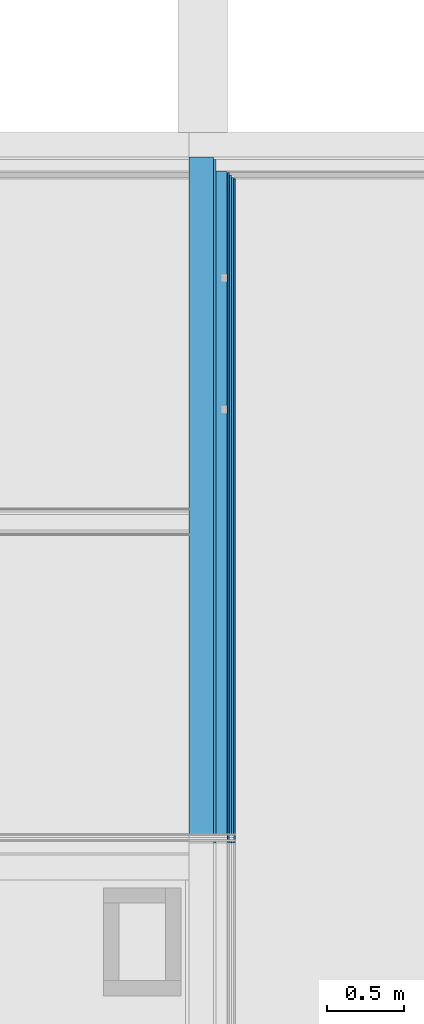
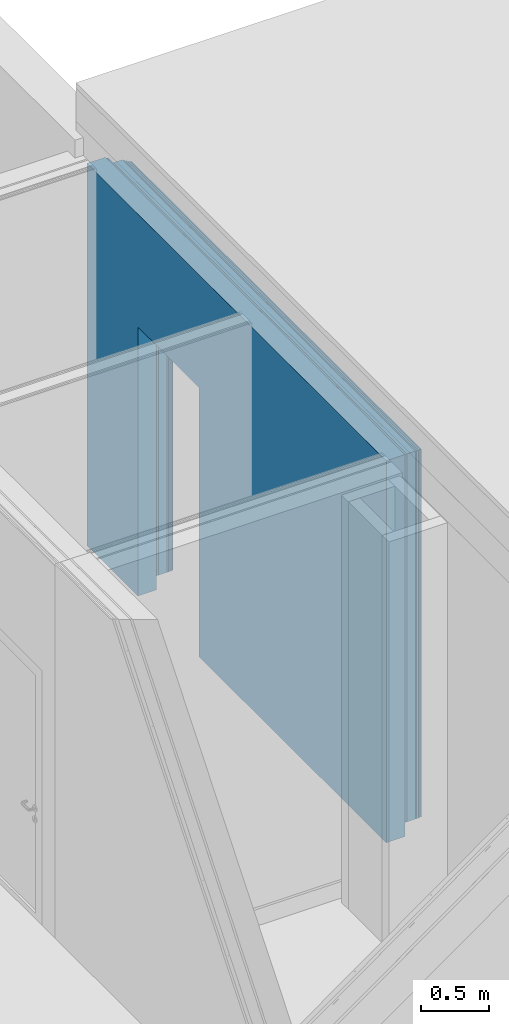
# One storey, part 31 of 139: 7 building element parts, 1 opening, 1 element without a shape of its own.
"""IFC2X3 building model written with IfcOpenShell, lengths in millimetres."""

from ifc_helpers import new_model, entity, si_unit, converted_unit, derived_unit, money_unit, direction, frame, origin_with_axes, place, context, subcontext, project, spatial, faceted_brep, material, type_object, element, aggregate, save


model = new_model("IFC2X3")

# Units and contexts
model_context = context("Model", 3, precision=0.01, world=origin_with_axes(), true_north=direction((0.0, 1.0)))
body_context = subcontext(model_context, "Body", "Model", "MODEL_VIEW")
ifc_project = project(units=[si_unit("LENGTHUNIT", "METRE", prefix="MILLI"), si_unit("AREAUNIT", "SQUARE_METRE"), si_unit("VOLUMEUNIT", "CUBIC_METRE"), converted_unit("PLANEANGLEUNIT", "DEGREE", entity("IfcPlaneAngleMeasure", 0.0174532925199), si_unit("PLANEANGLEUNIT", "RADIAN"), dimensions=[0, 0, 0, 0, 0, 0, 0]), money_unit("EUR"), converted_unit("TIMEUNIT", "Year", entity("IfcTimeMeasure", 31556926.0), si_unit("TIMEUNIT", "SECOND"), dimensions=[0, 0, 1, 0, 0, 0, 0]), si_unit("MASSUNIT", "GRAM", prefix="KILO"), si_unit("THERMODYNAMICTEMPERATUREUNIT", "DEGREE_CELSIUS"), si_unit("LUMINOUSINTENSITYUNIT", "LUMEN"), si_unit("ENERGYUNIT", "JOULE", prefix="MEGA"), derived_unit("THERMALCONDUCTANCEUNIT", [(si_unit("POWERUNIT", "WATT"), 1), (si_unit("LENGTHUNIT", "METRE"), -1), (si_unit("THERMODYNAMICTEMPERATUREUNIT", "KELVIN"), -1)]), derived_unit("SPECIFICHEATCAPACITYUNIT", [(si_unit("ENERGYUNIT", "JOULE"), 1), (si_unit("MASSUNIT", "GRAM", prefix="KILO"), -1), (si_unit("THERMODYNAMICTEMPERATUREUNIT", "KELVIN"), -1)]), derived_unit("MASSDENSITYUNIT", [(si_unit("MASSUNIT", "GRAM", prefix="KILO"), 1), (si_unit("VOLUMEUNIT", "CUBIC_METRE"), -1)])], contexts=[model_context])

# Site, building, storey
site_placement = place(None, origin_with_axes())
site = spatial("IfcSite", under=ifc_project, at=site_placement, Name="Kolde pst 67a", CompositionType="ELEMENT")
building_placement = place(site_placement, origin_with_axes())
building = spatial("IfcBuilding", under=site, at=building_placement, Name="Riigigümnaasium", CompositionType="ELEMENT")
storey_placement = place(building_placement, frame((0.0, 0.0, 4600.0), z_axis=(0.0, 0.0, 1.0), x_axis=(1.0, 0.0, 0.0)))
storey = spatial("IfcBuildingStorey", under=building, at=storey_placement, Name="2. korrus", CompositionType="ELEMENT", Elevation=4600.0)

# Wall, opening, building element parts
wall_type = type_object("IfcWallType", Name="SS-CLT-16/1_vill75+krohv 52 dB 300", PredefinedType="NOTDEFINED")
wall_placement = place(storey_placement, frame((26729.99923, 67089.9976531, -150.0), z_axis=(0.0, 0.0, 1.0), x_axis=(0.0, -1.0, 0.0)))
wall = element("IfcWall", 1, at=wall_placement, inside=storey, type_object=wall_type, Name="Sisesein")
opening_placement = place(wall_placement, frame((1204.99976471, 0.0, 150.0), z_axis=(0.0, 0.0, 1.0), x_axis=(1.0, 0.0, 0.0)))
element("IfcOpeningElement", 2, at=opening_placement, cuts=wall, Name="Siseuks", context=body_context, shape_type="Brep", body=[
    faceted_brep([(450.0, -300.0, 2300.0), (450.0, -300.0, 0.0), (450.0, 600.0, 0.0), (450.0, 600.0, 2300.0), (-450.0, -300.0, 2300.0), (-450.0, -300.0, 0.0), (-450.0, 600.0, 0.0), (-450.0, 600.0, 2300.0)], [[[0, 1, 2, 3]], [[0, 4, 5, 1]], [[1, 5, 6, 2]], [[3, 2, 6, 7]], [[4, 0, 3, 7]], [[5, 4, 7, 6]]]),
])
ifc_material_1 = material(Name="_VIIMISTLUSKIHT - viimistlus vastavalt SA osale")
building_element_part_1_placement = place(wall_placement, origin_with_axes())
building_element_part_1 = element("IfcBuildingElementPart", 3, at=building_element_part_1_placement, material=ifc_material_1, Name="_VIIMISTLUSKIHT - viimistlus vastavalt SA osale", context=body_context, shape_type="Brep", body=[
    faceted_brep([(1654.99976471, 300.0, 150.0), (1654.99976471, 300.0, 2450.0), (754.999764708, 300.0, 2450.0), (754.999764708, 300.0, 150.0), (139.999764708, 300.0, 150.0), (139.999764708, 300.0, 3470.0), (4428.81469968, 300.0, 3470.0), (4428.81469968, 300.0, 150.0), (1654.99976471, 290.0, 150.0), (1654.99976471, 290.0, 2450.0), (754.999764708, 290.0, 2450.0), (754.999764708, 290.0, 150.0), (139.999764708, 290.0, 150.0), (139.999764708, 290.0, 3470.0), (4428.81469968, 290.0, 3470.0), (4428.81469968, 290.0, 150.0)], [[[0, 1, 2, 3, 4, 5, 6, 7]], [[1, 0, 8, 9]], [[2, 1, 9, 10]], [[3, 2, 10, 11]], [[3, 11, 12, 4]], [[12, 13, 5, 4]], [[14, 6, 5, 13]], [[7, 6, 14, 15]], [[8, 0, 7, 15]], [[9, 8, 15, 14, 13, 12, 11, 10]]]),
])
ifc_material_2 = material(Name="_PLAATMATERJAL - tuletõkkekipsplaat, Knauf Red GKF või samaväärne")
building_element_part_2_placement = place(wall_placement, origin_with_axes())
building_element_part_2 = element("IfcBuildingElementPart", 4, at=building_element_part_2_placement, material=ifc_material_2, Name="_PLAATMATERJAL - tuletõkkekipsplaat, Knauf Red GKF või samaväärne", context=body_context, shape_type="Brep", body=[
    faceted_brep([(1654.99976471, 290.0, 150.0), (1654.99976471, 290.0, 2450.0), (754.999764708, 290.0, 2450.0), (754.999764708, 290.0, 150.0), (754.999764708, 290.0, 147.0), (129.999764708, 290.0, 147.0), (129.999764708, 290.0, 3470.0), (4428.81469968, 290.0, 3470.0), (4428.81469968, 290.0, 147.0), (1654.99976471, 290.0, 147.0), (1654.99976471, 275.0, 150.0), (1654.99976471, 275.0, 2450.0), (754.999764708, 275.0, 2450.0), (754.999764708, 275.0, 150.0), (754.999764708, 275.0, 147.0), (129.999764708, 275.0, 147.0), (129.999764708, 275.0, 3470.0), (4428.81469968, 275.0, 3470.0), (4428.81469968, 275.0, 147.0), (1654.99976471, 275.0, 147.0)], [[[0, 1, 2, 3, 4, 5, 6, 7, 8, 9]], [[1, 0, 10, 11]], [[2, 1, 11, 12]], [[3, 2, 12, 13]], [[3, 13, 14, 4]], [[14, 15, 5, 4]], [[15, 16, 6, 5]], [[17, 7, 6, 16]], [[8, 7, 17, 18]], [[9, 8, 18, 19]], [[10, 0, 9, 19]], [[11, 10, 19, 18, 17, 16, 15, 14, 13, 12]]]),
])
building_element_part_3_placement = place(wall_placement, origin_with_axes())
building_element_part_3 = element("IfcBuildingElementPart", 5, at=building_element_part_3_placement, material=ifc_material_2, Name="_PLAATMATERJAL - tuletõkkekipsplaat, Knauf Red GKF või samaväärne", context=body_context, shape_type="Brep", body=[
    faceted_brep([(1654.99976471, 275.0, 150.0), (1654.99976471, 275.0, 2450.0), (754.999764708, 275.0, 2450.0), (754.999764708, 275.0, 150.0), (754.999764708, 275.0, 147.0), (114.999764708, 275.0, 147.0), (114.999764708, 275.0, 3470.0), (4428.81469968, 275.0, 3470.0), (4428.81469968, 275.0, 147.0), (1654.99976471, 275.0, 147.0), (1654.99976471, 260.0, 150.0), (1654.99976471, 260.0, 2450.0), (754.999764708, 260.0, 2450.0), (754.999764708, 260.0, 150.0), (754.999764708, 260.0, 147.0), (114.999764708, 260.0, 147.0), (114.999764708, 260.0, 3470.0), (4428.81469968, 260.0, 3470.0), (4428.81469968, 260.0, 147.0), (1654.99976471, 260.0, 147.0)], [[[0, 1, 2, 3, 4, 5, 6, 7, 8, 9]], [[1, 0, 10, 11]], [[2, 1, 11, 12]], [[3, 2, 12, 13]], [[3, 13, 14, 4]], [[14, 15, 5, 4]], [[15, 16, 6, 5]], [[17, 7, 6, 16]], [[8, 7, 17, 18]], [[9, 8, 18, 19]], [[10, 0, 9, 19]], [[11, 10, 19, 18, 17, 16, 15, 14, 13, 12]]]),
])
ifc_material_3 = material(Name="_PLAATMATERJAL - OSB3 plaat")
building_element_part_4_placement = place(wall_placement, origin_with_axes())
building_element_part_4 = element("IfcBuildingElementPart", 6, at=building_element_part_4_placement, material=ifc_material_3, Name="_PLAATMATERJAL - OSB3 plaat", context=body_context, shape_type="Brep", body=[
    faceted_brep([(1654.99976471, 260.0, 150.0), (1654.99976471, 260.0, 2450.0), (754.999764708, 260.0, 2450.0), (754.999764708, 260.0, 150.0), (754.999764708, 260.0, 147.0), (99.9997647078, 260.0, 147.0), (99.9997647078, 260.0, 3470.0), (4428.81469968, 260.0, 3470.0), (4428.81469968, 260.0, 147.0), (1654.99976471, 260.0, 147.0), (1654.99976471, 250.0, 150.0), (1654.99976471, 250.0, 2450.0), (754.999764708, 250.0, 2450.0), (754.999764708, 250.0, 150.0), (754.999764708, 250.0, 147.0), (99.9997647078, 250.0, 147.0), (99.9997647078, 250.0, 3470.0), (4428.81469968, 250.0, 3470.0), (4428.81469968, 250.0, 147.0), (1654.99976471, 250.0, 147.0)], [[[0, 1, 2, 3, 4, 5, 6, 7, 8, 9]], [[1, 0, 10, 11]], [[2, 1, 11, 12]], [[3, 2, 12, 13]], [[3, 13, 14, 4]], [[14, 15, 5, 4]], [[15, 16, 6, 5]], [[17, 7, 6, 16]], [[8, 7, 17, 18]], [[9, 8, 18, 19]], [[10, 0, 9, 19]], [[11, 10, 19, 18, 17, 16, 15, 14, 13, 12]]]),
])
ifc_material_4 = material(Name="_KARKASS - metallkarkass CW 75/50/06 ja UW 75/40/06, samm 600, vahel mineraalvill, helineeldetegur αw = 1.0,  ISOVER ACOUSTIC 75mm või samaväärne")
building_element_part_5_placement = place(wall_placement, origin_with_axes())
building_element_part_5 = element("IfcBuildingElementPart", 7, at=building_element_part_5_placement, material=ifc_material_4, Name="_KARKASS - metallkarkass CW 75/50/06 ja UW 75/40/06, samm 600, vahel mineraalvill, helineeldetegur αw = 1.0,  ISOVER ACOUSTIC 75mm või samaväärne", context=body_context, shape_type="Brep", body=[
    faceted_brep([(1654.99976471, 250.0, 150.0), (1654.99976471, 250.0, 2450.0), (754.999764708, 250.0, 2450.0), (754.999764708, 250.0, 150.0), (754.999764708, 250.0, 147.0), (89.9997647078, 250.0, 147.0), (89.9997647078, 250.0, 3470.0), (4428.81469968, 250.0, 3470.0), (4428.81469968, 250.0, 147.0), (1654.99976471, 250.0, 147.0), (1654.99976471, 175.0, 150.0), (1654.99976471, 175.0, 2450.0), (754.999764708, 175.0, 2450.0), (754.999764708, 175.0, 150.0), (754.999764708, 175.0, 147.0), (89.9997647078, 175.0, 147.0), (89.9997647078, 175.0, 3470.0), (4428.81469968, 175.0, 3470.0), (4428.81469968, 175.0, 147.0), (1654.99976471, 175.0, 147.0)], [[[0, 1, 2, 3, 4, 5, 6, 7, 8, 9]], [[1, 0, 10, 11]], [[2, 1, 11, 12]], [[3, 2, 12, 13]], [[3, 13, 14, 4]], [[14, 15, 5, 4]], [[15, 16, 6, 5]], [[17, 7, 6, 16]], [[8, 7, 17, 18]], [[9, 8, 18, 19]], [[10, 0, 9, 19]], [[11, 10, 19, 18, 17, 16, 15, 14, 13, 12]]]),
])
ifc_material_5 = material(Name="_ÕHKVAHE")
building_element_part_6_placement = place(wall_placement, origin_with_axes())
building_element_part_6 = element("IfcBuildingElementPart", 8, at=building_element_part_6_placement, material=ifc_material_5, Name="_ÕHKVAHE", context=body_context, shape_type="Brep", body=[
    faceted_brep([(1654.99976471, 175.0, 150.0), (1654.99976471, 175.0, 2450.0), (754.999764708, 175.0, 2450.0), (754.999764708, 175.0, 150.0), (754.999764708, 175.0, 147.0), (14.9997647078, 175.0, 147.0), (14.9997647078, 175.0, 3470.0), (4428.81469968, 175.0, 3470.0), (4428.81469968, 175.0, 147.0), (1654.99976471, 175.0, 147.0), (1654.99976471, 160.0, 150.0), (1654.99976471, 160.0, 2450.0), (754.999764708, 160.0, 2450.0), (754.999764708, 160.0, 150.0), (754.999764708, 160.0, 147.0), (14.9997647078, 160.0, 147.0), (14.9997647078, 160.0, 3470.0), (4428.81469968, 160.0, 3470.0), (4428.81469968, 160.0, 147.0), (1654.99976471, 160.0, 147.0)], [[[0, 1, 2, 3, 4, 5, 6, 7, 8, 9]], [[1, 0, 10, 11]], [[2, 1, 11, 12]], [[3, 2, 12, 13]], [[3, 13, 14, 4]], [[14, 15, 5, 4]], [[15, 16, 6, 5]], [[17, 7, 6, 16]], [[8, 7, 17, 18]], [[9, 8, 18, 19]], [[10, 0, 9, 19]], [[11, 10, 19, 18, 17, 16, 15, 14, 13, 12]]]),
])
ifc_material_6 = material(Name="_KANDETARIND - CLT ristkihtliimpuit vastavalt EK osale, CLT paigaldusvuugid teibitakse ROTHOBLAAS teibiga")
building_element_part_7_placement = place(wall_placement, origin_with_axes())
building_element_part_7 = element("IfcBuildingElementPart", 9, at=building_element_part_7_placement, material=ifc_material_6, Name="_KANDETARIND - CLT ristkihtliimpuit vastavalt EK osale, CLT paigaldusvuugid teibitakse ROTHOBLAAS teibiga", context=body_context, shape_type="Brep", body=[
    faceted_brep([(1654.99976471, 160.0, 150.0), (1654.99976471, 160.0, 2450.0), (754.999764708, 160.0, 2450.0), (754.999764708, 160.0, 150.0), (754.999764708, 160.0, 20.0), (-0.000235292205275, 160.0, 20.0), (-0.000235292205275, 160.0, 3470.0), (4428.81469968, 160.0, 3470.0), (4428.81469968, 160.0, 20.0), (1654.99976471, 160.0, 20.0), (1654.99976471, 0.0, 150.0), (1654.99976471, 0.0, 2450.0), (754.999764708, 0.0, 2450.0), (754.999764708, 0.0, 150.0), (754.999764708, 0.0, 20.0), (-0.000235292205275, 0.0, 20.0), (-0.000235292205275, 0.0, 3470.0), (4428.81469968, 0.0, 3470.0), (4428.81469968, 0.0, 20.0), (1654.99976471, 0.0, 20.0)], [[[0, 1, 2, 3, 4, 5, 6, 7, 8, 9]], [[1, 0, 10, 11]], [[2, 1, 11, 12]], [[3, 2, 12, 13]], [[3, 13, 14, 4]], [[14, 15, 5, 4]], [[15, 16, 6, 5]], [[17, 7, 6, 16]], [[8, 7, 17, 18]], [[9, 8, 18, 19]], [[10, 0, 9, 19]], [[11, 10, 19, 18, 17, 16, 15, 14, 13, 12]]]),
])
aggregate(wall, [building_element_part_1, building_element_part_2, building_element_part_3, building_element_part_4, building_element_part_5, building_element_part_6, building_element_part_7])

save(model, "model.ifc")
